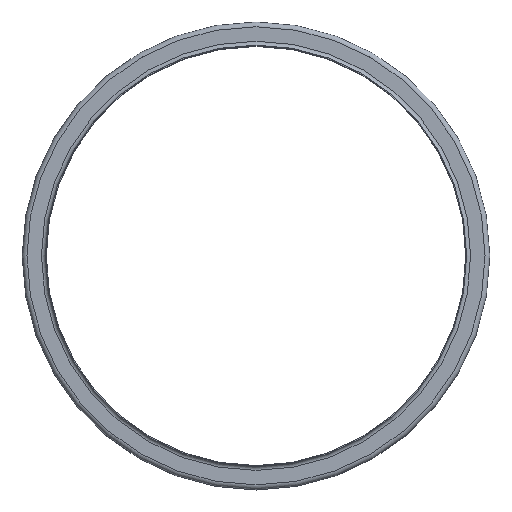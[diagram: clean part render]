
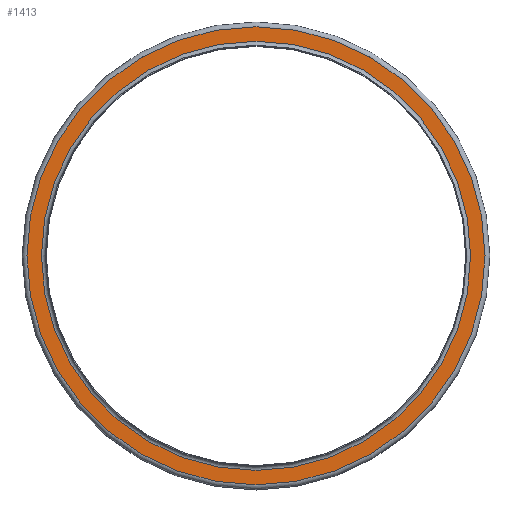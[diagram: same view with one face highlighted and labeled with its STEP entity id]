
A CAD part, top view. The second image highlights one B-rep face of the part: STEP entity #1413.
In plain terms, the highlighted planar face has unit normal (0, 0, 1).
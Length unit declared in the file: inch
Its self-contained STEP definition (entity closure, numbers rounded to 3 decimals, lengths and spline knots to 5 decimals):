
#127=FACE_BOUND('',#381,.T.);
#226=FACE_OUTER_BOUND('',#380,.T.);
#380=EDGE_LOOP('',(#1105));
#381=EDGE_LOOP('',(#1106));
#542=CIRCLE('',#1682,12.274);
#543=CIRCLE('',#1684,13.101);
#655=VERTEX_POINT('',#2578);
#656=VERTEX_POINT('',#2582);
#808=EDGE_CURVE('',#655,#655,#542,.T.);
#809=EDGE_CURVE('',#656,#656,#543,.T.);
#1105=ORIENTED_EDGE('',*,*,#809,.F.);
#1106=ORIENTED_EDGE('',*,*,#808,.T.);
#1203=PLANE('',#1683);
#1413=ADVANCED_FACE('',(#226,#127),#1203,.T.);
#1682=AXIS2_PLACEMENT_3D('',#2580,#2178,#2179);
#1683=AXIS2_PLACEMENT_3D('',#2581,#2180,#2181);
#1684=AXIS2_PLACEMENT_3D('',#2583,#2182,#2183);
#2178=DIRECTION('center_axis',(0.,0.,-1.));
#2179=DIRECTION('ref_axis',(1.,0.,0.));
#2180=DIRECTION('center_axis',(0.,0.,1.));
#2181=DIRECTION('ref_axis',(1.,0.,0.));
#2182=DIRECTION('center_axis',(0.,0.,-1.));
#2183=DIRECTION('ref_axis',(1.,0.,0.));
#2578=CARTESIAN_POINT('',(12.274,0.,-0.226));
#2580=CARTESIAN_POINT('Origin',(0.,0.,-0.226));
#2581=CARTESIAN_POINT('Origin',(0.,13.101,-0.226));
#2582=CARTESIAN_POINT('',(13.101,0.,-0.226));
#2583=CARTESIAN_POINT('Origin',(0.,0.,-0.226));
